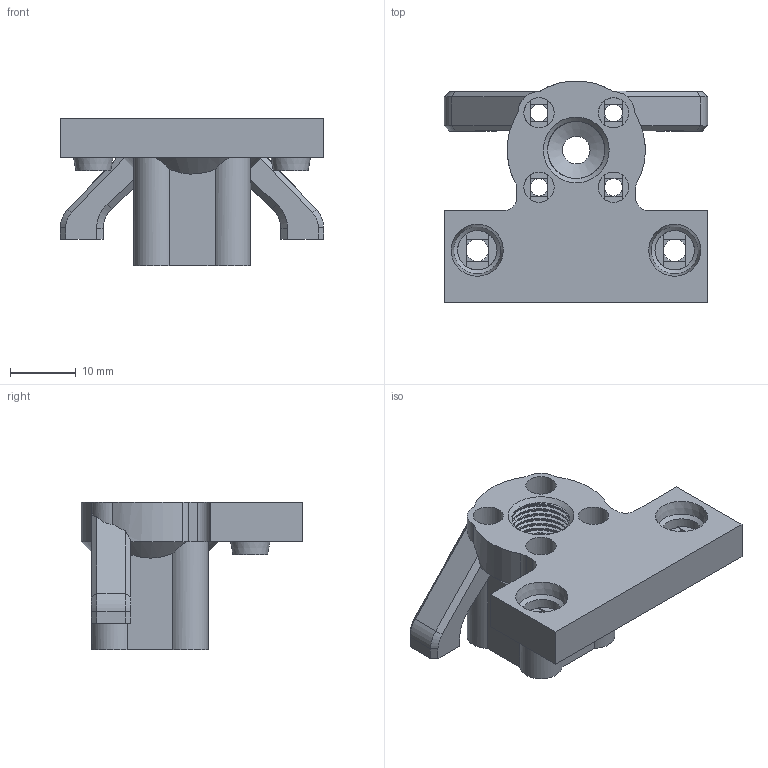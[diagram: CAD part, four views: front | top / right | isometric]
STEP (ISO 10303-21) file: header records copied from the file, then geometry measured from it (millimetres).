
FILE_DESCRIPTION(/* description */ (''),/* implementation_level */ '2;1');
FILE_NAME(/* name */ 'HMG7-Phaetus-Dragon-Mount.step',/* time_stamp */ '2022-11-01T21:26:20-07:00',/* author */ (''),/* organization */ (''),/* preprocessor_version */ 'ST-DEVELOPER v19.2',/* originating_system */ 'Autodesk Translation Framework v11.17.0.187',/* authorisation */ '');
FILE_SCHEMA (('AUTOMOTIVE_DESIGN { 1 0 10303 214 3 1 1 }'));
Length unit declared in the file: millimetre
Products named in the file (3): GEN_7_1.5; Dragon_HF; Dragon_Interface_Plate
Assembly tree (2 placements, depth 3):
  GEN_7_1.5
    Dragon_HF
      Dragon_Interface_Plate
Bounding box: 40 x 33.7 x 22.43 mm (x, y, z)
Volume: 8711.1 mm3; surface area: 6263 mm2
Topology: 1 solids, 1 shells, 189 faces, 499 edges, 314 vertices
Faces by surface type: plane 122, cylinder 39, cone 22, bspline 6
Full cylindrical faces by diameter (mm): 2.65 x4, 3.4 x2, 4.2 x1, 4.6 x4, 6 x2, 9.728 x7
Entity records: 9895 total; most frequent: CARTESIAN_POINT 5120, ORIENTED_EDGE 998, DIRECTION 969, EDGE_CURVE 499, AXIS2_PLACEMENT_3D 333, VERTEX_POINT 314, LINE 303, VECTOR 303
